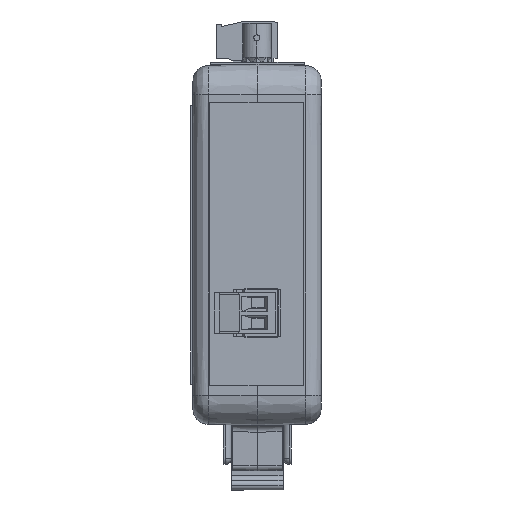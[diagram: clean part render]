
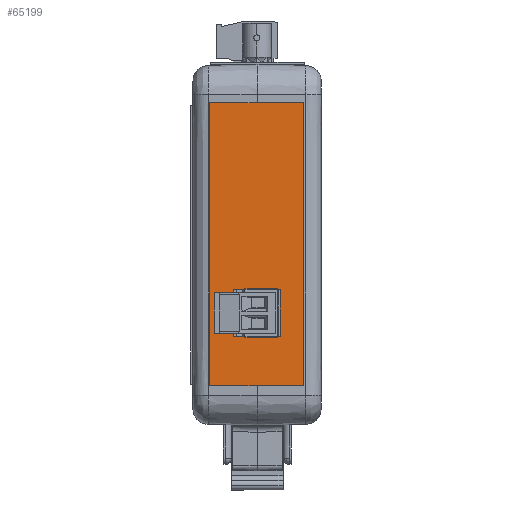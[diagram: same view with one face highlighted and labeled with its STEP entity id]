
A CAD part, left-side view. The second image highlights one B-rep face of the part: STEP entity #65199.
In plain terms, the highlighted planar face has unit normal (-1, 0, 0) as drawn and (0, 1, 0) by its records, which use the part's own axes.
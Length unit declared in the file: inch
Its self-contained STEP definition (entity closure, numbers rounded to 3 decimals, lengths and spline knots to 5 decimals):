
#1648 = VECTOR ( 'NONE', #19351, 39.37008 ) ;
#2659 = DIRECTION ( 'NONE',  ( 1., 0., 0. ) ) ;
#2966 = FACE_OUTER_BOUND ( 'NONE', #62872, .T. ) ;
#3455 = ORIENTED_EDGE ( 'NONE', *, *, #55965, .F. ) ;
#4408 = VERTEX_POINT ( 'NONE', #36279 ) ;
#4790 = CARTESIAN_POINT ( 'NONE',  ( 0.91, 0.02, 0. ) ) ;
#5202 = CARTESIAN_POINT ( 'NONE',  ( 0.675, 0.02, -1.818 ) ) ;
#5727 = CARTESIAN_POINT ( 'NONE',  ( 0., 0.02, 0. ) ) ;
#8678 = DIRECTION ( 'NONE',  ( 0., 0., 1. ) ) ;
#9362 = CARTESIAN_POINT ( 'NONE',  ( 0., 0.02, -2.75 ) ) ;
#11242 = ORIENTED_EDGE ( 'NONE', *, *, #26517, .T. ) ;
#11261 = LINE ( 'NONE', #37740, #77054 ) ;
#11437 = EDGE_CURVE ( 'NONE', #23190, #4408, #77558, .T. ) ;
#12685 = CARTESIAN_POINT ( 'NONE',  ( 0., 0.02, 0. ) ) ;
#13148 = DIRECTION ( 'NONE',  ( -1., 0., 0. ) ) ;
#13518 = EDGE_CURVE ( 'NONE', #67410, #21189, #54456, .T. ) ;
#14299 = ORIENTED_EDGE ( 'NONE', *, *, #13518, .F. ) ;
#14696 = EDGE_LOOP ( 'NONE', ( #3455, #15855, #14299, #65849 ) ) ;
#15381 = DIRECTION ( 'NONE',  ( 0., -1., 0. ) ) ;
#15855 = ORIENTED_EDGE ( 'NONE', *, *, #84295, .F. ) ;
#16331 = VERTEX_POINT ( 'NONE', #9362 ) ;
#19124 = LINE ( 'NONE', #12685, #1648 ) ;
#19351 = DIRECTION ( 'NONE',  ( 0., 0., 1. ) ) ;
#19585 = VECTOR ( 'NONE', #34031, 39.37008 ) ;
#21189 = VERTEX_POINT ( 'NONE', #33530 ) ;
#23190 = VERTEX_POINT ( 'NONE', #5727 ) ;
#25174 = VECTOR ( 'NONE', #2659, 39.37008 ) ;
#26517 = EDGE_CURVE ( 'NONE', #42727, #16331, #74263, .T. ) ;
#28242 = CARTESIAN_POINT ( 'NONE',  ( 0., 0.02, 0. ) ) ;
#31623 = CARTESIAN_POINT ( 'NONE',  ( 0.225, 0.02, -2.268 ) ) ;
#33530 = CARTESIAN_POINT ( 'NONE',  ( 0.675, 0.02, -2.268 ) ) ;
#34031 = DIRECTION ( 'NONE',  ( 0., 0., -1. ) ) ;
#35066 = CARTESIAN_POINT ( 'NONE',  ( 0.225, 0.02, -1.818 ) ) ;
#36279 = CARTESIAN_POINT ( 'NONE',  ( 0.91, 0.02, 0. ) ) ;
#37403 = EDGE_CURVE ( 'NONE', #70782, #67410, #11261, .T. ) ;
#37740 = CARTESIAN_POINT ( 'NONE',  ( 0.225, 0.02, -1.818 ) ) ;
#38170 = DIRECTION ( 'NONE',  ( -1., 0., 0. ) ) ;
#40677 = CARTESIAN_POINT ( 'NONE',  ( 0.675, 0.02, -1.818 ) ) ;
#41995 = CARTESIAN_POINT ( 'NONE',  ( 0., 0.02, 0. ) ) ;
#42727 = VERTEX_POINT ( 'NONE', #75799 ) ;
#43271 = CARTESIAN_POINT ( 'NONE',  ( 0.225, 0.02, -1.818 ) ) ;
#44164 = EDGE_CURVE ( 'NONE', #16331, #23190, #19124, .T. ) ;
#44368 = DIRECTION ( 'NONE',  ( 1., 0., 0. ) ) ;
#45327 = ORIENTED_EDGE ( 'NONE', *, *, #11437, .T. ) ;
#46836 = ORIENTED_EDGE ( 'NONE', *, *, #44164, .T. ) ;
#51826 = VERTEX_POINT ( 'NONE', #83154 ) ;
#52475 = CARTESIAN_POINT ( 'NONE',  ( 0., 0.02, -2.75 ) ) ;
#54350 = ORIENTED_EDGE ( 'NONE', *, *, #76880, .T. ) ;
#54456 = LINE ( 'NONE', #40677, #19585 ) ;
#54667 = PLANE ( 'NONE',  #64876 ) ;
#55965 = EDGE_CURVE ( 'NONE', #51826, #70782, #72794, .T. ) ;
#57317 = DIRECTION ( 'NONE',  ( 0., 0., -1. ) ) ;
#57355 = VECTOR ( 'NONE', #8678, 39.37008 ) ;
#57399 = FACE_BOUND ( 'NONE', #14696, .T. ) ;
#58424 = LINE ( 'NONE', #4790, #73861 ) ;
#61320 = DIRECTION ( 'NONE',  ( 0., 0., -1. ) ) ;
#62872 = EDGE_LOOP ( 'NONE', ( #46836, #45327, #54350, #11242 ) ) ;
#64876 = AXIS2_PLACEMENT_3D ( 'NONE', #28242, #15381, #61320 ) ;
#65061 = VECTOR ( 'NONE', #13148, 39.37008 ) ;
#65199 = ADVANCED_FACE ( 'NONE', ( #2966, #57399 ), #54667, .F. ) ;
#65849 = ORIENTED_EDGE ( 'NONE', *, *, #37403, .F. ) ;
#67410 = VERTEX_POINT ( 'NONE', #5202 ) ;
#68352 = LINE ( 'NONE', #31623, #83774 ) ;
#70782 = VERTEX_POINT ( 'NONE', #43271 ) ;
#72794 = LINE ( 'NONE', #35066, #57355 ) ;
#73861 = VECTOR ( 'NONE', #57317, 39.37008 ) ;
#74263 = LINE ( 'NONE', #52475, #65061 ) ;
#75799 = CARTESIAN_POINT ( 'NONE',  ( 0.91, 0.02, -2.75 ) ) ;
#76880 = EDGE_CURVE ( 'NONE', #4408, #42727, #58424, .T. ) ;
#77054 = VECTOR ( 'NONE', #44368, 39.37008 ) ;
#77558 = LINE ( 'NONE', #41995, #25174 ) ;
#83154 = CARTESIAN_POINT ( 'NONE',  ( 0.225, 0.02, -2.268 ) ) ;
#83774 = VECTOR ( 'NONE', #38170, 39.37008 ) ;
#84295 = EDGE_CURVE ( 'NONE', #21189, #51826, #68352, .T. ) ;
